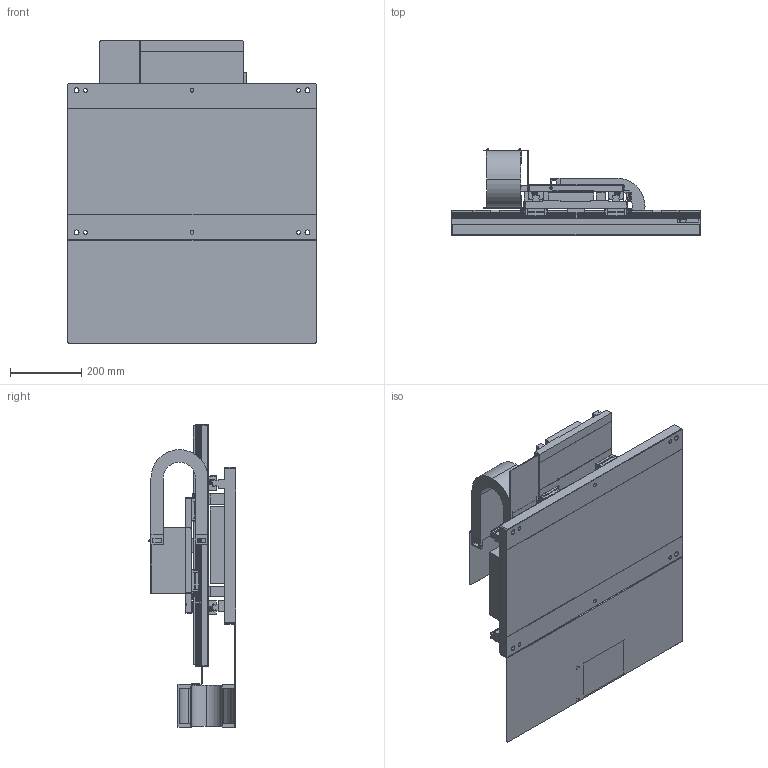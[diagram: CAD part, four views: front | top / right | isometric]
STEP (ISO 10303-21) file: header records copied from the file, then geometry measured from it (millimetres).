
FILE_DESCRIPTION (( 'STEP AP214' ), '1' );
FILE_NAME ('NST-D35B435A4BPNB_#2.00_0.STEP', '2021-04-07T04:57:07', ( '' ), ( '' ), 'SwSTEP 2.0', 'SolidWorks 2018', '' );
FILE_SCHEMA (( 'AUTOMOTIVE_DESIGN' ));
Length unit declared in the file: millimetre
Products named in the file (6): 17YK1450_Org; 17YK1250_Org; NST-D35B435A4BPNB_#2.00_0; AUA02330; AUA02000; AUA02320
Assembly tree (5 placements, depth 2):
  NST-D35B435A4BPNB_#2.00_0
    AUA02320
    AUA02330
    AUA02000
    17YK1450_Org
    17YK1250_Org
Bounding box: 700 x 245 x 852.5 mm (x, y, z)
Volume: 26969941.8 mm3; surface area: 3363268.7 mm2
Topology: 54 solids, 54 shells, 2315 faces, 6102 edges, 3925 vertices
Faces by surface type: plane 1654, cylinder 451, cone 114, torus 48, sphere 48
Entity records: 95681 total; most frequent: CARTESIAN_POINT 13812, ORIENTED_EDGE 12088, DIRECTION 11714, EDGE_CURVE 6044, LINE 4444, VECTOR 4444, VERTEX_POINT 3909, AXIS2_PLACEMENT_3D 3635
